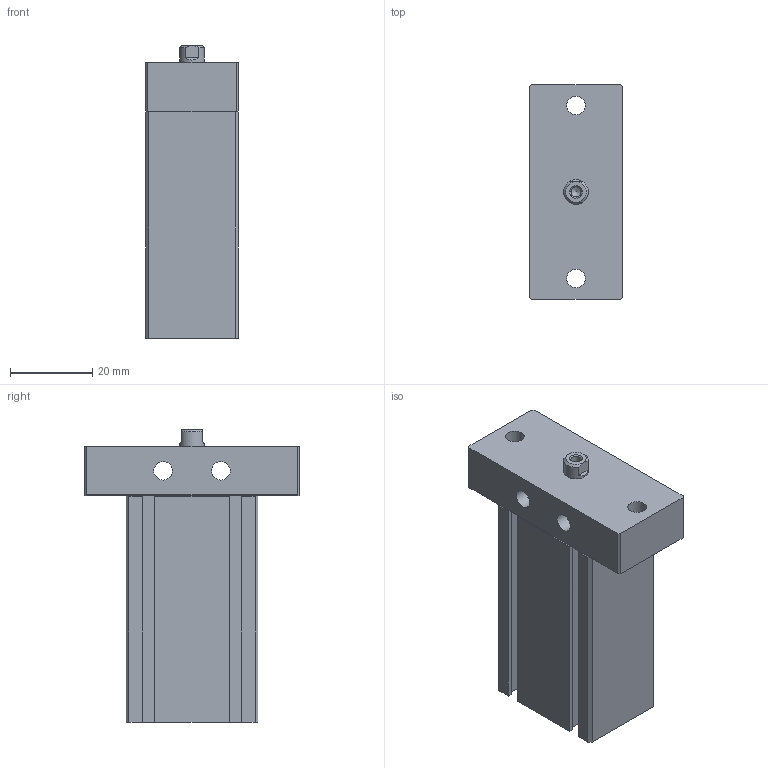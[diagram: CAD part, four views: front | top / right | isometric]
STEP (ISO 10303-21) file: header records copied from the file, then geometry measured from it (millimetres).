
FILE_DESCRIPTION((''),'2;1');
FILE_NAME('J:\3D電子目錄\氣缸\ND\ND\ND-F\ND16x30-F.stp','2008-03-12T13:53:40',('66-2f-008'),(''),'Autodesk Inventor 11','Autodesk Inventor 11','');
FILE_SCHEMA(('AUTOMOTIVE_DESIGN { 1 0 10303 214 1 1 1 1 }'));
Length unit declared in the file: millimetre
Products named in the file (1): ND16-F
Bounding box: 22.4 x 52 x 71 mm (x, y, z)
Volume: 46220.4 mm3; surface area: 14654 mm2
Topology: 2 solids, 2 shells, 110 faces, 268 edges, 171 vertices
Faces by surface type: plane 75, bspline 16, cone 10, cylinder 8, torus 1
Full cylindrical faces by diameter (mm): 1.5 x2, 4.5 x2, 6 x1, 10 x1, 18 x1, 19 x1
Entity records: 3158 total; most frequent: CARTESIAN_POINT 731, DIRECTION 466, ORIENTED_EDGE 464, EDGE_CURVE 232, VECTOR 180, LINE 180, VERTEX_POINT 164, EDGE_LOOP 156
